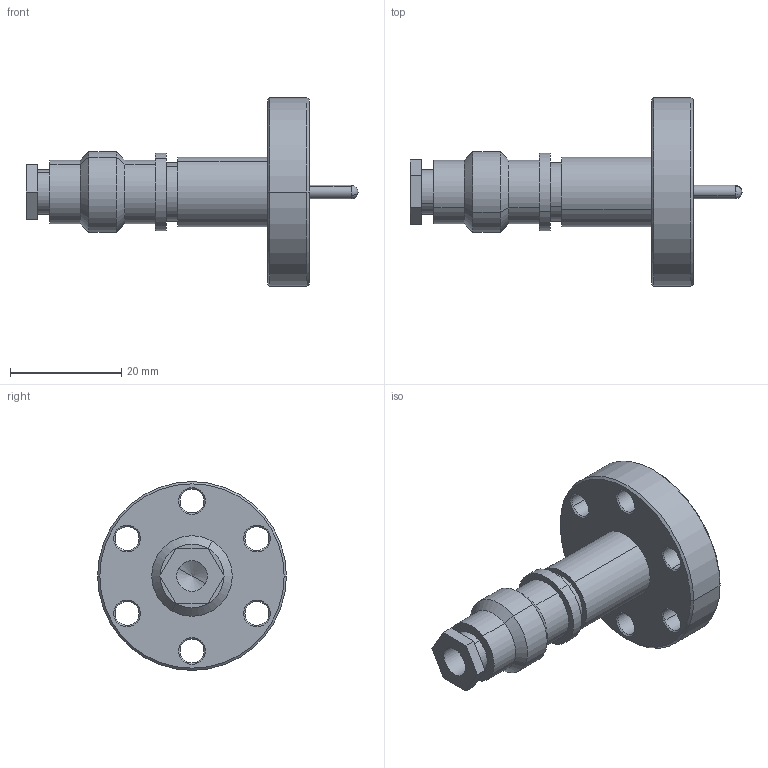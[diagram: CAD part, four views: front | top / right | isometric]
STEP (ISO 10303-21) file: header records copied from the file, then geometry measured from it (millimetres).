
FILE_DESCRIPTION((''),'2;1');
FILE_NAME('N:\Transfer\Berger Martin\Leybold\C15\210404.stp','2005-02-07T09:55:35',('VCRC_L'),(''),'Autodesk Inventor 9','Autodesk Inventor 9','');
FILE_SCHEMA(('AUTOMOTIVE_DESIGN { 1 0 10303 214 1 1 1 1 }'));
Length unit declared in the file: millimetre
Products named in the file (1): 210404
Bounding box: 59.8 x 34 x 34 mm (x, y, z)
Volume: 9584.7 mm3; surface area: 6240.9 mm2
Topology: 1 solids, 1 shells, 109 faces, 250 edges, 148 vertices
Faces by surface type: cone 42, cylinder 24, bspline 22, plane 17, torus 2, sphere 2
Entity records: 3545 total; most frequent: CARTESIAN_POINT 1038, DIRECTION 564, ORIENTED_EDGE 488, EDGE_CURVE 244, AXIS2_PLACEMENT_3D 232, VERTEX_POINT 148, CIRCLE 144, EDGE_LOOP 132
